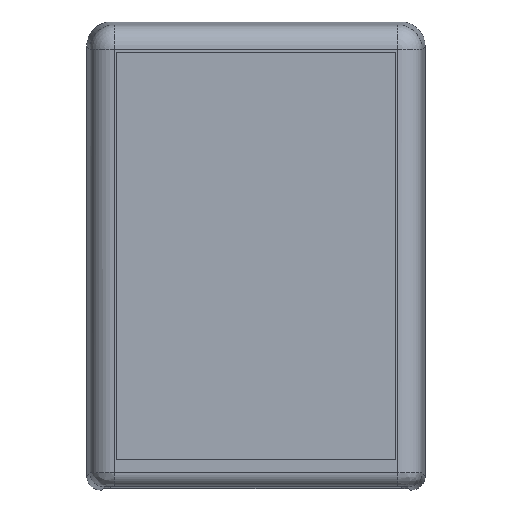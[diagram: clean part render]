
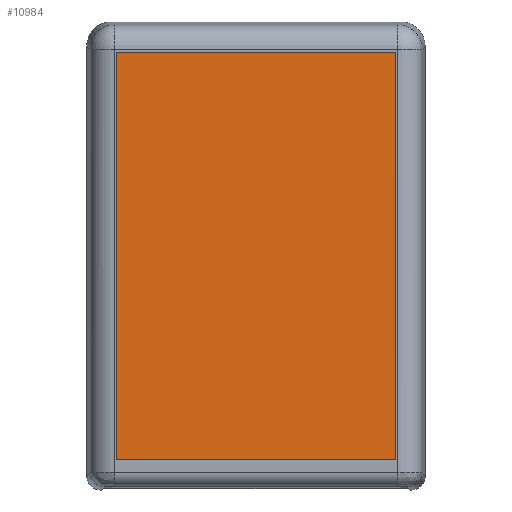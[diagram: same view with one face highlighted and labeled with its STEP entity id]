
A CAD part, top view. The second image highlights one B-rep face of the part: STEP entity #10984.
In plain terms, the highlighted planar face has unit normal (0, 0, 1) as drawn and (0, 0, -1) by its records, which use the part's own axes.
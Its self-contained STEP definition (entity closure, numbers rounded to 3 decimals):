
#1392=LINE('',#18098,#2392);
#1396=LINE('',#18106,#2396);
#1399=LINE('',#18112,#2399);
#1402=LINE('',#18117,#2402);
#2392=VECTOR('',#13633,55.);
#2396=VECTOR('',#13639,80.);
#2399=VECTOR('',#13644,55.);
#2402=VECTOR('',#13649,80.);
#3016=PLANE('',#11704);
#3519=FACE_OUTER_BOUND('',#4243,.T.);
#4243=EDGE_LOOP('',(#9107,#9108,#9109,#9110));
#5379=VERTEX_POINT('',#18096);
#5380=VERTEX_POINT('',#18097);
#5383=VERTEX_POINT('',#18105);
#5385=VERTEX_POINT('',#18111);
#6706=EDGE_CURVE('',#5379,#5380,#1392,.T.);
#6710=EDGE_CURVE('',#5380,#5383,#1396,.T.);
#6713=EDGE_CURVE('',#5383,#5385,#1399,.T.);
#6716=EDGE_CURVE('',#5385,#5379,#1402,.T.);
#9107=ORIENTED_EDGE('',*,*,#6706,.T.);
#9108=ORIENTED_EDGE('',*,*,#6710,.T.);
#9109=ORIENTED_EDGE('',*,*,#6713,.T.);
#9110=ORIENTED_EDGE('',*,*,#6716,.T.);
#10984=ADVANCED_FACE('',(#3519),#3016,.F.);
#11704=AXIS2_PLACEMENT_3D('',#18119,#13651,#13652);
#13633=DIRECTION('',(0.,-1.,0.));
#13639=DIRECTION('',(-1.,0.,0.));
#13644=DIRECTION('',(0.,1.,0.));
#13649=DIRECTION('',(1.,0.,0.));
#13651=DIRECTION('center_axis',(0.,0.,
1.));
#13652=DIRECTION('ref_axis',(1.,0.,0.));
#18096=CARTESIAN_POINT('',(40.,27.5,-17.9));
#18097=CARTESIAN_POINT('',(40.,-27.5,-17.9));
#18098=CARTESIAN_POINT('',(40.,-27.5,-17.9));
#18105=CARTESIAN_POINT('',(-40.,-27.5,-17.9));
#18106=CARTESIAN_POINT('',(-40.,-27.5,-17.9));
#18111=CARTESIAN_POINT('',(-40.,27.5,-17.9));
#18112=CARTESIAN_POINT('',(-40.,27.5,-17.9));
#18117=CARTESIAN_POINT('',(40.,27.5,-17.9));
#18119=CARTESIAN_POINT('Origin',(0.,0.,-17.9));
